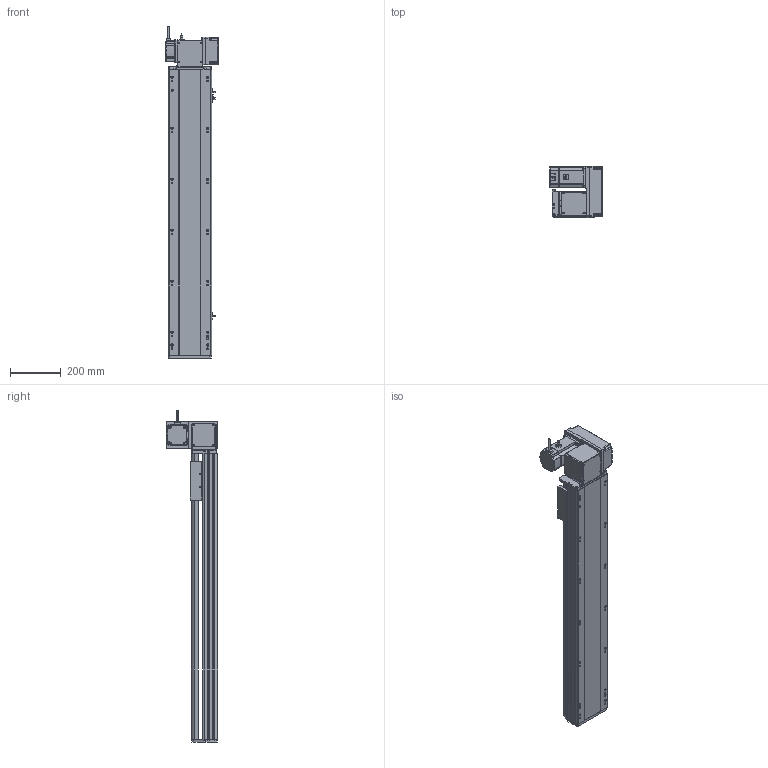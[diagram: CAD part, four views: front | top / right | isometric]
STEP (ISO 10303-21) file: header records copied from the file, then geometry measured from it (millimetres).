
FILE_DESCRIPTION (( 'STEP AP214' ), '1' );
FILE_NAME ('RTB17S-XX-850-RW-M75-C4.STEP', '2025-12-12T02:35:11', ( '' ), ( '' ), 'SwSTEP 2.0', 'SolidWorks 2018', '' );
FILE_SCHEMA (( 'AUTOMOTIVE_DESIGN' ));
Length unit declared in the file: millimetre
Products named in the file (15): RTB22S-GY-008-M75--萇儂啣^RTB17S-RW-々湍釱蚾饜-750W_RTB17S-XX-XX-RW-M75-C4; RTB17S-L-004-賑釱^RTB17S-賑釱_RTB17S-XX-XX-RW-M75-C4; RMP17S-L-014-T20-P75--々湍釱^RTB17S-RW-々湍釱蚾饜-750W_RTB17S-XX-XX-RW-M75-C4; RTB22S-GY-005P^RTB17S-RW-々湍釱蚾饜-750W_RTB17S-XX-XX-RW-M75-C4; RTB17S-L-007奻裔^RTB17S-XX-XX-RW-M75-C4; RTB22S-GY-017P^RTB17S-RW-々湍釱蚾饜-750W_RTB17S-XX-XX-RW-M75-C4; RTB17S-賑釱^RTB17S-XX-XX-RW-M75-C4; RTB17S-XX-850-RW-M75-C4; 750W萇儂^RTB17S-XX-XX-RW-M75-C4; RTB22S-GY-018P^RTB17S-RW-々湍釱蚾饜-750W_RTB17S-XX-XX-RW-M75-C4; RTB17-R-011菁釱^RTB17S-XX-XX-RW-M75-C4; EE672^RTB17S-XX-XX-RW-M75-C4; RTB17S-L-001-耜醱啣^RTB17S-XX-XX-RW-M75-C4; RTB17S-RW-々湍釱蚾饜-750W^RTB17S-XX-XX-RW-M75-C4; RTH13-BL-012覜茼え俋离^RTB17S-賑釱_RTB17S-XX-XX-RW-M75-C4
Assembly tree (17 placements, depth 3):
  RTB17S-XX-850-RW-M75-C4
    RTB17-R-011菁釱^RTB17S-XX-XX-RW-M75-C4
    EE672^RTB17S-XX-XX-RW-M75-C4  x3
    RTB17S-L-001-耜醱啣^RTB17S-XX-XX-RW-M75-C4
    RTB17S-賑釱^RTB17S-XX-XX-RW-M75-C4
      RTB17S-L-004-賑釱^RTB17S-賑釱_RTB17S-XX-XX-RW-M75-C4
      RTH13-BL-012覜茼え俋离^RTB17S-賑釱_RTB17S-XX-XX-RW-M75-C4
    RTB17S-L-007奻裔^RTB17S-XX-XX-RW-M75-C4
    750W萇儂^RTB17S-XX-XX-RW-M75-C4
    RTB17S-RW-々湍釱蚾饜-750W^RTB17S-XX-XX-RW-M75-C4
      RMP17S-L-014-T20-P75--々湍釱^RTB17S-RW-々湍釱蚾饜-750W_RTB17S-XX-XX-RW-M75-C4
      RTB22S-GY-005P^RTB17S-RW-々湍釱蚾饜-750W_RTB17S-XX-XX-RW-M75-C4
      RTB22S-GY-017P^RTB17S-RW-々湍釱蚾饜-750W_RTB17S-XX-XX-RW-M75-C4  x2
      RTB22S-GY-008-M75--萇儂啣^RTB17S-RW-々湍釱蚾饜-750W_RTB17S-XX-XX-RW-M75-C4
      RTB22S-GY-018P^RTB17S-RW-々湍釱蚾饜-750W_RTB17S-XX-XX-RW-M75-C4
Bounding box: 207.4 x 201.5 x 1302.2 mm (x, y, z)
Volume: 11258223 mm3; surface area: 1888468.3 mm2
Topology: 17 solids, 17 shells, 2089 faces, 5782 edges, 3734 vertices
Faces by surface type: plane 970, cylinder 703, bspline 294, cone 110, sphere 8, torus 4
Entity records: 58102 total; most frequent: CARTESIAN_POINT 17046, ORIENTED_EDGE 8408, DIRECTION 7862, EDGE_CURVE 4204, AXIS2_PLACEMENT_3D 2754, VERTEX_POINT 2738, LINE 2354, VECTOR 2354
